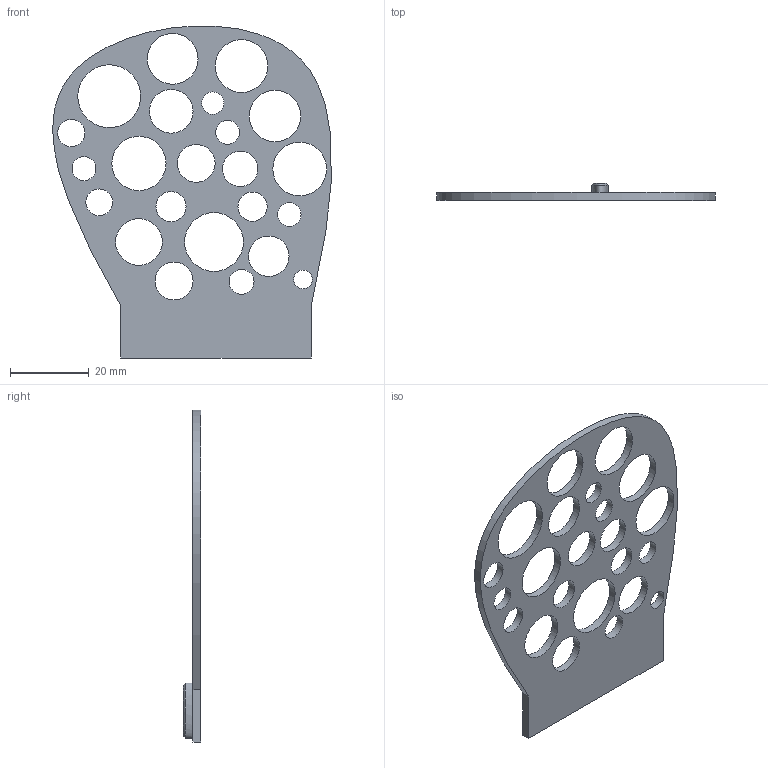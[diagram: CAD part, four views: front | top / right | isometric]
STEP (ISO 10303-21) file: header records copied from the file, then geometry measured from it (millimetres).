
FILE_DESCRIPTION(/* description */ ('STEP AP242 Edition 2','CAx-IF Rec.Pracs.---Representation and Presentation of Product Manufacturing Information (PMI)---4.0---2014-10-13','CAx-IF Rec.Pracs.---3D Tessellated Geometry---0.4---2014-09-14','2;1','CAx-IF Rec.Pracs.---User Defined Attributes---1.5---2016-08-15'),/* implementation_level */ '2;1');
FILE_NAME(/* name */ 'Part Studio 1 - Part 2',/* time_stamp */ '2026-05-31T12:05:17Z',/* author */ (''),/* organization */ (''),/* preprocessor_version */ 'ST-DEVELOPER v20',/* originating_system */ 'ONSHAPE BY PTC INC, 1.215',/* authorisation */ ' ');
FILE_SCHEMA (('AP242_MANAGED_MODEL_BASED_3D_ENGINEERING_MIM_LF { 1 0 10303 442 3 1 4 }'));
Length unit declared in the file: metre
Products named in the file (1): Part 2
Bounding box: 70.81 x 4.5 x 84.47 mm (x, y, z)
Volume: 6211.4 mm3; surface area: 8094.8 mm2
Topology: 1 solids, 1 shells, 32 faces, 86 edges, 57 vertices
Faces by surface type: cylinder 23, plane 6, bspline 3
Full cylindrical faces by diameter (mm): 4.761 x1, 5.663 x1, 6 x1, 6.079 x2, 6.317 x1, 6.824 x1, 6.948 x1, 7.455 x1, 7.643 x1, 9 x1, 9.61 x1, 9.653 x1, 10.283 x1, 11.123 x1, 11.876 x1, 12.906 x1, 13.155 x1, 13.421 x1, 13.677 x1, 13.804 x1, 14.946 x1, 16.006 x1
Entity records: 1339 total; most frequent: CARTESIAN_POINT 489, DIRECTION 164, ORIENTED_EDGE 122, EDGE_LOOP 104, FACE_BOUND 104, AXIS2_PLACEMENT_3D 77, EDGE_CURVE 61, VERTEX_POINT 57
